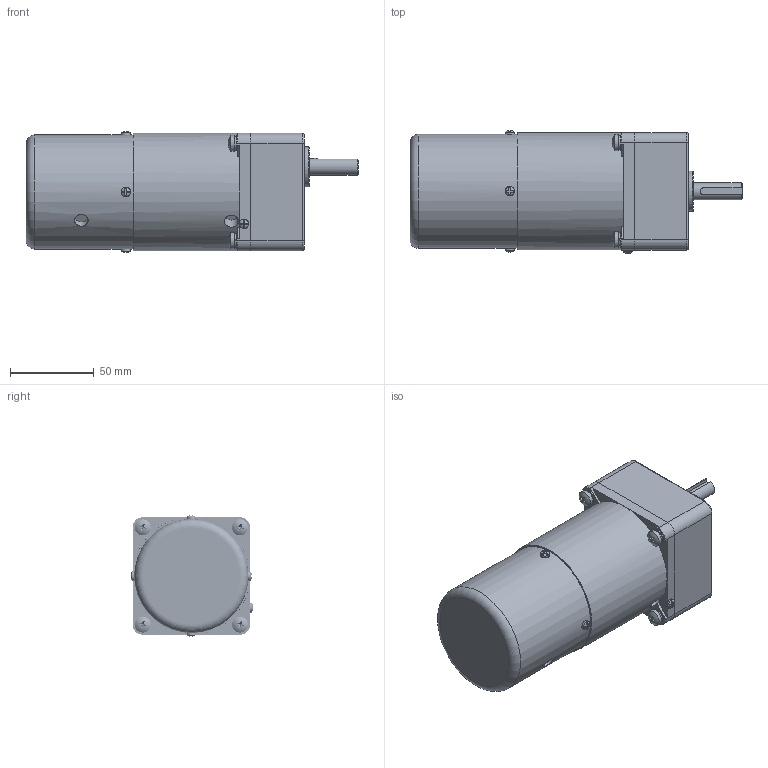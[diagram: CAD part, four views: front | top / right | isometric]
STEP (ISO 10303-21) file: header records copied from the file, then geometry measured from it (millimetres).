
FILE_DESCRIPTION(/* description */ (''),/* implementation_level */ '2;1');
FILE_NAME(/* name */ '70矮箱L-15W刹车调速.stp',/* time_stamp */ '2022-10-31T09:16:22+08:00',/* author */ (''),/* organization */ (''),/* preprocessor_version */ 'ST-DEVELOPER v16.7',/* originating_system */ 'SIEMENS PLM Software NX 1899',/* authorisation */ '');
FILE_SCHEMA (('AP203_CONFIGURATION_CONTROLLED_3D_DESIGN_OF_MECHANICAL_PARTS_AND_ASSEMBLIES_MIM_LF { 1 0 10303 403 2 1 2}'));
Products named in the file (1): yf186188FEB6lc6i
Bounding box: 198 x 73.28 x 72.48 mm (x, y, z)
Volume: 664447.1 mm3; surface area: 66164.6 mm2
Topology: 14 solids, 15 shells, 355 faces, 913 edges, 609 vertices
Faces by surface type: plane 171, bspline 88, cylinder 69, torus 11, sphere 9, cone 7
Full cylindrical faces by diameter (mm): 2.7 x1, 4.826 x4, 5 x4, 5.3 x4, 5.6 x5, 6 x5, 8 x1, 8.3 x1, 9 x4, 9.5 x4, 10 x1, 24 x1, 63 x1, 66.6 x2, 68 x1, 70 x1
Entity records: 56523 total; most frequent: CARTESIAN_POINT 48518, ORIENTED_EDGE 1608, DIRECTION 1347, EDGE_CURVE 804, VERTEX_POINT 562, AXIS2_PLACEMENT_3D 536, EDGE_LOOP 461, ADVANCED_FACE 355
